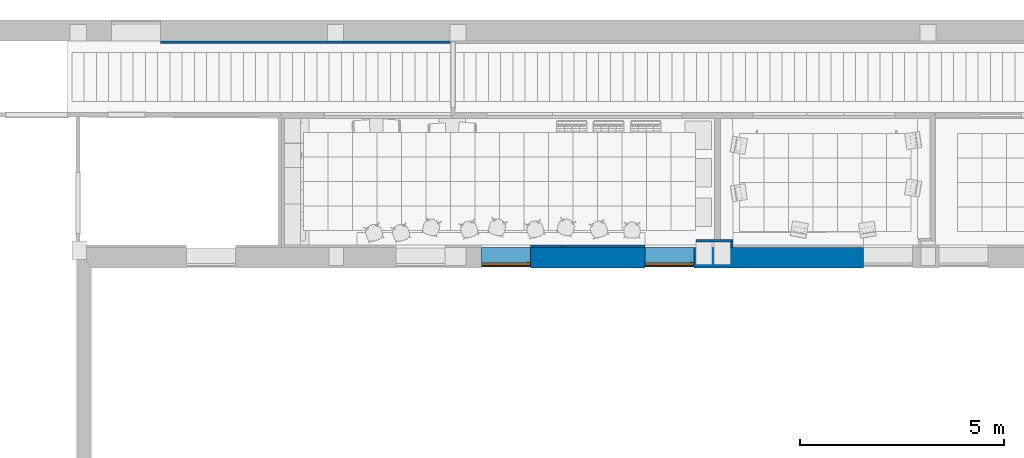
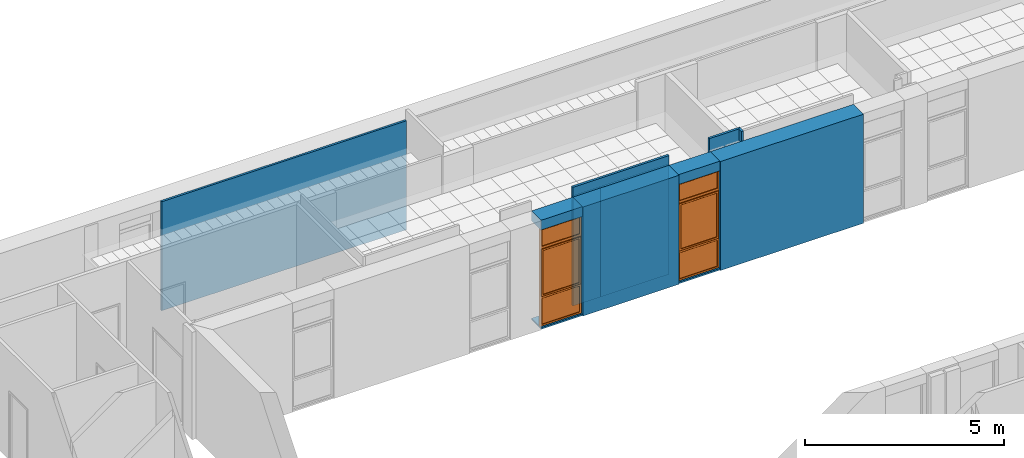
# One storey, part 35 of 60: 10 walls, 2 proxies, 2 openings.
"""IFC2X3 building model written with IfcOpenShell, lengths in millimetres."""

from ifc_helpers import new_model, entity, si_unit, converted_unit, derived_unit, money_unit, direction, frame, origin_with_axes, origin_2d_with_axis, place, context, subcontext, project, spatial, polyline, rectangle, outline, extrude, open_shell, faceted_brep, surface_model, source, transform, mapped, material, layer, layer_set, layer_usage, type_object, element, fill, save


model = new_model("IFC2X3")

# Units and contexts
model_context = context("Model", 3, precision=0.01, world=origin_with_axes(), true_north=direction((0.0, 1.0)))
body_context = subcontext(model_context, "Body", "Model", "MODEL_VIEW")
ifc_project = project(units=[si_unit("LENGTHUNIT", "METRE", prefix="MILLI"), si_unit("AREAUNIT", "SQUARE_METRE"), si_unit("VOLUMEUNIT", "CUBIC_METRE"), converted_unit("PLANEANGLEUNIT", "DEGREE", entity("IfcPlaneAngleMeasure", 0.0174532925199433), si_unit("PLANEANGLEUNIT", "RADIAN"), dimensions=[0, 0, 0, 0, 0, 0, 0]), money_unit("USD"), converted_unit("TIMEUNIT", "Year", entity("IfcTimeMeasure", 31557600.0), si_unit("TIMEUNIT", "SECOND"), dimensions=[0, 0, 1, 0, 0, 0, 0]), si_unit("MASSUNIT", "GRAM", prefix="KILO"), si_unit("THERMODYNAMICTEMPERATUREUNIT", "DEGREE_CELSIUS"), si_unit("LUMINOUSINTENSITYUNIT", "LUMEN"), si_unit("ENERGYUNIT", "JOULE", prefix="MEGA"), derived_unit("THERMALCONDUCTANCEUNIT", [(si_unit("POWERUNIT", "WATT"), 1), (si_unit("LENGTHUNIT", "METRE"), -1), (si_unit("THERMODYNAMICTEMPERATUREUNIT", "KELVIN"), -1)]), derived_unit("SPECIFICHEATCAPACITYUNIT", [(si_unit("ENERGYUNIT", "JOULE"), 1), (si_unit("MASSUNIT", "GRAM", prefix="KILO"), -1), (si_unit("THERMODYNAMICTEMPERATUREUNIT", "KELVIN"), -1)]), derived_unit("MASSDENSITYUNIT", [(si_unit("MASSUNIT", "GRAM", prefix="KILO"), 1), (si_unit("VOLUMEUNIT", "CUBIC_METRE"), -1)])], contexts=[model_context])

# Site, building, storey
site_placement = place(None, origin_with_axes())
site = spatial("IfcSite", under=ifc_project, at=site_placement, Name="Sitio", CompositionType="ELEMENT")
building_placement = place(site_placement, origin_with_axes())
building = spatial("IfcBuilding", under=site, at=building_placement, Name="Construcción", CompositionType="ELEMENT")
storey_placement = place(building_placement, frame((0.0, 0.0, 3650.0), z_axis=(0.0, 0.0, 1.0), x_axis=(1.0, 0.0, 0.0)))
storey = spatial("IfcBuildingStorey", under=building, at=storey_placement, Name="PLANTA 2ª", CompositionType="ELEMENT", Elevation=3650.0)

# Wall, opening, proxy
ifc_material_1 = material(Name="ARQ_AM246_Arrebossat_De_Guix")
ifc_layer_1 = layer(ifc_material_1, 10.0, ventilated="UNKNOWN")
ifc_material_2 = material(Name="ARQ_CE217_Gero")
ifc_layer_2 = layer(ifc_material_2, 120.0, ventilated="UNKNOWN")
ifc_material_3 = material(Name="ARQ_AI031_Aillament_Poliestireno expandido EPS")
ifc_layer_3 = layer(ifc_material_3, 120.0, ventilated="UNKNOWN")
ifc_material_4 = material(Name="ARQ_CE218_Ceramic")
ifc_layer_4 = layer(ifc_material_4, 220.0, ventilated="UNKNOWN")
ifc_layer_5 = layer(ifc_material_1, 10.0, ventilated="UNKNOWN")
ifc_layer_set_1 = layer_set([ifc_layer_1, ifc_layer_2, ifc_layer_3, ifc_layer_4, ifc_layer_5], Name="façana pati CR2 (ampit)")
ifc_layer_usage_1 = layer_usage(ifc_layer_set_1, "AXIS2", "POSITIVE", -480.0)
wall_type_1 = type_object("IfcWallType", Name="façana pati CR2 (ampit) 480", PredefinedType="NOTDEFINED")
wall_1_placement = place(storey_placement, frame((-18136.43135579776, -1193.975823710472, 0.0), z_axis=(0.0, 0.0, 1.0), x_axis=(1.0, 0.0, 0.0)))
wall_1 = element("IfcWallStandardCase", 1, at=wall_1_placement, inside=storey, type_object=wall_type_1, material=ifc_layer_usage_1, Name="MS-200", context=body_context, shape_type="SweptSolid", body=[
    extrude(outline(polyline([(0.0, -480.0), (1200.000000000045, -480.0), (1200.000000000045, 0.0), (0.0, 0.0), (0.0, -480.0)])), origin_with_axes(), (0.0, 0.0, 1.0), 3350.0),
])
opening_1_placement = place(wall_1_placement, frame((600.0000000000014, 0.0, 49.99999999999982), z_axis=(0.0, 0.0, 1.0), x_axis=(1.0, 0.0, 0.0)))
opening_1 = element("IfcOpeningElement", 2, at=opening_1_placement, cuts=wall_1, Name="F01", context=body_context, shape_type="SweptSolid", body=[
    extrude(rectangle(XDim=1200.000000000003, YDim=3000.0, at=origin_2d_with_axis()), frame((0.0, -429.9999999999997, 1500.0), z_axis=(0.0, -1.0, 0.0), x_axis=(-1.0, 0.0, 0.0)), (0.0, 0.0, -1.0), 909.9999999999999),
    extrude(rectangle(XDim=1200.000000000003, YDim=3000.0, at=origin_2d_with_axis()), frame((0.0, -429.9999999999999, 1500.0), z_axis=(0.0, 1.0, 0.0), x_axis=(-1.0, 0.0, 0.0)), (0.0, 0.0, -1.0), 530.0),
])
building_element_proxy_type = type_object("IfcBuildingElementProxyType", Name="Ventana Vertical Multi-Faja 27", PredefinedType="NOTDEFINED")
shared_shape = source(origin_with_axes(), body_context, "Body", "SurfaceModel", [
    faceted_brep([(-575.0, 0.0, 925.0), (-549.9999999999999, 0.0, 925.0), (-549.9999999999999, 0.0, 850.0), (-549.9999999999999, 0.0, 50.00000000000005), (-600.0, 0.0, 50.00000000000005), (-600.0, 0.0, 2950.0), (-549.9999999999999, 0.0, 2950.0), (-549.9999999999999, 0.0, 2450.0), (-549.9999999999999, 0.0, 2375.0), (-575.0, 0.0, 2375.0), (-575.0, -25.00000000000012, 925.0), (-549.9999999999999, -25.00000000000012, 925.0), (-549.9999999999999, -25.00000000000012, 950.0000000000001), (-549.9999999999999, -50.00000000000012, 950.0000000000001), (-549.9999999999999, -50.00000000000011, 850.0), (-549.9999999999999, -50.00000000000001, 50.00000000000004), (-600.0, -50.00000000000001, 50.00000000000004), (-600.0, -50.00000000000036, 2950.0), (-549.9999999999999, -50.00000000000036, 2950.0), (-549.9999999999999, -50.0000000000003, 2450.0), (-550.0, -25.00000000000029, 2375.0), (-549.9999999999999, -50.00000000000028, 2350.0), (-549.9999999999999, -25.00000000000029, 2350.0), (-575.0, -25.00000000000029, 2375.0)], [[[0, 1, 2, 3, 4, 5, 6, 7, 8, 9]], [[0, 10, 11, 1]], [[11, 12, 13, 14, 2, 1]], [[3, 2, 14, 15]], [[4, 3, 15, 16]], [[5, 4, 16, 17]], [[6, 5, 17, 18]], [[7, 6, 18, 19]], [[20, 8, 7, 19, 21, 22]], [[20, 23, 9, 8]], [[9, 23, 10, 0]], [[22, 12, 11, 10, 23, 20]], [[22, 21, 13, 12]], [[17, 16, 15, 14, 13, 21, 19, 18]]]),
    faceted_brep([(575.0, 0.0, 925.0), (575.0, 0.0, 2375.0), (549.9999999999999, 0.0, 2375.0), (549.9999999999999, 0.0, 2450.0), (549.9999999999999, 0.0, 2950.0), (600.0, 0.0, 2950.0), (600.0, 0.0, 50.00000000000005), (549.9999999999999, 0.0, 50.00000000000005), (549.9999999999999, 0.0, 850.0), (549.9999999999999, 0.0, 925.0), (575.0, -25.00000000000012, 925.0), (575.0, -25.00000000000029, 2375.0), (549.9999999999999, -25.00000000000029, 2375.0), (549.9999999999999, -25.00000000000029, 2350.0), (549.9999999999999, -50.00000000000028, 2350.0), (549.9999999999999, -50.0000000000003, 2450.0), (549.9999999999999, -50.00000000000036, 2950.0), (600.0, -50.00000000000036, 2950.0), (600.0, -50.00000000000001, 50.00000000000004), (549.9999999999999, -50.00000000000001, 50.00000000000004), (549.9999999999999, -50.00000000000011, 850.0), (550.0, -25.00000000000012, 925.0), (549.9999999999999, -50.00000000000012, 950.0000000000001), (549.9999999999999, -25.00000000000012, 950.0000000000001)], [[[0, 1, 2, 3, 4, 5, 6, 7, 8, 9]], [[0, 10, 11, 1]], [[1, 11, 12, 2]], [[12, 13, 14, 15, 3, 2]], [[4, 3, 15, 16]], [[5, 4, 16, 17]], [[6, 5, 17, 18]], [[7, 6, 18, 19]], [[8, 7, 19, 20]], [[21, 9, 8, 20, 22, 23]], [[9, 21, 10, 0]], [[12, 11, 10, 21, 23, 13]], [[23, 22, 14, 13]], [[14, 22, 20, 19, 18, 17, 16, 15]]]),
    faceted_brep([(-549.9999999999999, -25.00000000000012, 950.0000000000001), (-549.9999999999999, -50.00000000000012, 950.0000000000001), (549.9999999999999, -50.00000000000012, 950.0000000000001), (549.9999999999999, -25.00000000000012, 950.0000000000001), (-549.9999999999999, -25.00000000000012, 925.0), (-549.9999999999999, 0.0, 925.0), (-549.9999999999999, 0.0, 850.0), (-549.9999999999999, -50.00000000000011, 850.0), (549.9999999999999, -50.00000000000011, 850.0), (550.0, -25.00000000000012, 925.0), (549.9999999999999, 0.0, 850.0), (549.9999999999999, 0.0, 925.0)], [[[0, 1, 2, 3]], [[4, 5, 6, 7, 1, 0]], [[1, 7, 8, 2]], [[9, 3, 2, 8, 10, 11]], [[9, 4, 0, 3]], [[5, 4, 9, 11]], [[11, 10, 6, 5]], [[6, 10, 8, 7]]]),
    faceted_brep([(-549.9999999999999, 0.0, 2375.0), (-549.9999999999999, 0.0, 2450.0), (549.9999999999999, 0.0, 2450.0), (549.9999999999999, 0.0, 2375.0), (-550.0, -25.00000000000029, 2375.0), (-549.9999999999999, -25.00000000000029, 2350.0), (-549.9999999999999, -50.00000000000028, 2350.0), (-549.9999999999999, -50.0000000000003, 2450.0), (549.9999999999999, -50.0000000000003, 2450.0), (549.9999999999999, -25.00000000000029, 2375.0), (549.9999999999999, -50.00000000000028, 2350.0), (549.9999999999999, -25.00000000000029, 2350.0)], [[[0, 1, 2, 3]], [[4, 5, 6, 7, 1, 0]], [[2, 1, 7, 8]], [[9, 3, 2, 8, 10, 11]], [[9, 4, 0, 3]], [[11, 5, 4, 9]], [[11, 10, 6, 5]], [[7, 6, 10, 8]]]),
    faceted_brep([(549.9999999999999, -50.00000000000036, 2950.0), (549.9999999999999, 0.0, 2950.0), (600.0, 0.0, 2950.0), (600.0, -50.00000000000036, 2950.0), (-549.9999999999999, -50.00000000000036, 2950.0), (-549.9999999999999, 0.0, 2950.0), (-600.0, 0.0, 2950.0), (-600.0, 0.0, 3000.0), (600.0, 0.0, 3000.0), (600.0, -50.00000000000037, 3000.0), (-600.0, -50.00000000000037, 3000.0), (-600.0, -50.00000000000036, 2950.0)], [[[0, 1, 2, 3]], [[4, 5, 1, 0]], [[1, 5, 6, 7, 8, 2]], [[3, 2, 8, 9]], [[0, 3, 9, 10, 11, 4]], [[11, 6, 5, 4]], [[10, 7, 6, 11]], [[9, 8, 7, 10]]]),
    faceted_brep([(-549.9999999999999, -50.00000000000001, 50.0), (-549.9999999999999, 0.0, 50.00000000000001), (-600.0, 0.0, 50.00000000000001), (-600.0, -50.00000000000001, 50.0), (549.9999999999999, -50.00000000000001, 50.0), (549.9999999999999, 0.0, 50.00000000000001), (600.0, 0.0, 50.00000000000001), (600.0, 0.0, 0.0), (-600.0, 0.0, 0.0), (-600.0, -50.0, 0.0), (600.0, -50.0, 0.0), (600.0, -50.00000000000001, 50.0)], [[[0, 1, 2, 3]], [[4, 5, 1, 0]], [[1, 5, 6, 7, 8, 2]], [[3, 2, 8, 9]], [[0, 3, 9, 10, 11, 4]], [[11, 6, 5, 4]], [[10, 7, 6, 11]], [[9, 8, 7, 10]]]),
    surface_model("IfcShellBasedSurfaceModel", [(-549.9999999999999, -35.0, 49.99999999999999), (549.9999999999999, -35.0, 49.99999999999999), (549.9999999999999, -35.0000000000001, 850.0), (-549.9999999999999, -35.0000000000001, 850.0)], [open_shell([[[0, 1, 2, 3]]])]),
    surface_model("IfcShellBasedSurfaceModel", [(-549.9999999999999, -15.0, 49.99999999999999), (-549.9999999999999, -15.0000000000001, 850.0), (549.9999999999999, -15.0000000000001, 850.0), (549.9999999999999, -15.0, 49.99999999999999)], [open_shell([[[0, 1, 2, 3]]])]),
    faceted_brep([(-521.5, -25.00000000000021, 1677.0), (-522.8397459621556, -25.00000000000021, 1682.0), (-522.8397459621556, -37.00000000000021, 1682.0), (-521.5, -37.00000000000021, 1677.0), (-521.5, -25.0000000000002, 1623.0), (-522.8397459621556, -25.0000000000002, 1618.0), (-526.5, -25.0000000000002, 1614.339745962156), (-531.5, -25.0000000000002, 1613.0), (-543.5, -25.0000000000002, 1613.0), (-548.5, -25.0000000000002, 1614.339745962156), (-552.1602540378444, -25.0000000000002, 1618.0), (-553.5, -25.0000000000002, 1623.0), (-553.5, -25.00000000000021, 1677.0), (-552.1602540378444, -25.00000000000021, 1682.0), (-548.5, -25.00000000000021, 1685.660254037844), (-543.5, -25.00000000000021, 1687.0), (-531.5, -25.00000000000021, 1687.0), (-526.5, -25.00000000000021, 1685.660254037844), (-526.5, -37.00000000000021, 1685.660254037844), (-531.5, -37.00000000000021, 1687.0), (-543.5, -37.00000000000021, 1687.0), (-548.5, -37.00000000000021, 1685.660254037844), (-552.1602540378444, -37.00000000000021, 1682.0), (-553.5, -37.00000000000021, 1677.0), (-553.5, -37.0000000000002, 1623.0), (-552.1602540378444, -37.0000000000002, 1618.0), (-548.5, -37.0000000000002, 1614.339745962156), (-543.5, -37.0000000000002, 1613.0), (-531.5, -37.0000000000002, 1613.0), (-526.5, -37.0000000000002, 1614.339745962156), (-522.8397459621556, -37.0000000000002, 1618.0), (-521.5, -37.0000000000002, 1623.0)], [[[0, 1, 2, 3]], [[0, 4, 5, 6, 7, 8, 9, 10, 11, 12, 13, 14, 15, 16, 17, 1]], [[1, 17, 18, 2]], [[3, 2, 18, 19, 20, 21, 22, 23, 24, 25, 26, 27, 28, 29, 30, 31]], [[4, 0, 3, 31]], [[5, 4, 31, 30]], [[6, 5, 30, 29]], [[7, 6, 29, 28]], [[8, 7, 28, 27]], [[9, 8, 27, 26]], [[10, 9, 26, 25]], [[11, 10, 25, 24]], [[12, 11, 24, 23]], [[13, 12, 23, 22]], [[14, 13, 22, 21]], [[15, 14, 21, 20]], [[16, 15, 20, 19]], [[17, 16, 19, 18]]]),
    faceted_brep([(-537.5, -37.0000000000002, 1663.5), (-544.25, -37.0000000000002, 1661.69134295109), (-544.25, -61.00000000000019, 1661.69134295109), (-537.5, -61.00000000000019, 1663.5), (-530.75, -37.0000000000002, 1661.69134295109), (-525.80865704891, -37.0000000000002, 1656.75), (-524.0, -37.0000000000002, 1650.0), (-525.8086570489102, -37.0000000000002, 1643.25), (-530.75, -37.0000000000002, 1638.30865704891), (-537.5, -37.0000000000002, 1636.5), (-544.25, -37.0000000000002, 1638.30865704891), (-549.19134295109, -37.0000000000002, 1643.25), (-550.9999999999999, -37.0000000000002, 1650.0), (-549.1913429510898, -37.0000000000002, 1656.75), (-549.1913429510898, -61.00000000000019, 1656.75), (-550.9999999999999, -61.00000000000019, 1650.0), (-549.19134295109, -61.00000000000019, 1643.25), (-544.25, -61.00000000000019, 1638.30865704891), (-537.5, -61.00000000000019, 1636.5), (-530.75, -61.00000000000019, 1638.30865704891), (-525.8086570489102, -61.00000000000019, 1643.25), (-524.0, -61.00000000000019, 1650.0), (-525.80865704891, -61.00000000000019, 1656.75), (-530.75, -61.00000000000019, 1661.69134295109)], [[[0, 1, 2, 3]], [[0, 4, 5, 6, 7, 8, 9, 10, 11, 12, 13, 1]], [[1, 13, 14, 2]], [[3, 2, 14, 15, 16, 17, 18, 19, 20, 21, 22, 23]], [[4, 0, 3, 23]], [[5, 4, 23, 22]], [[6, 5, 22, 21]], [[7, 6, 21, 20]], [[8, 7, 20, 19]], [[9, 8, 19, 18]], [[10, 9, 18, 17]], [[11, 10, 17, 16]], [[12, 11, 16, 15]], [[13, 12, 15, 14]]]),
    faceted_brep([(-526.0, -61.00000000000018, 1543.0), (-537.5, -61.00000000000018, 1540.0), (-548.9999999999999, -61.00000000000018, 1543.0), (-550.9999999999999, -61.00000000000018, 1546.0), (-550.9999999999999, -61.00000000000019, 1650.0), (-549.1913429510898, -61.00000000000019, 1656.75), (-544.25, -61.00000000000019, 1661.69134295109), (-537.5, -61.00000000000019, 1663.5), (-530.75, -61.00000000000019, 1661.69134295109), (-525.80865704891, -61.00000000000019, 1656.75), (-524.0, -61.00000000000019, 1650.0), (-524.0, -61.00000000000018, 1546.0), (-525.9999999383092, -69.00000000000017, 1543.000000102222), (-537.499999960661, -69.00000000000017, 1539.999999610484), (-548.9999999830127, -69.00000000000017, 1543.000000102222), (-551.0000003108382, -69.00000000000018, 1545.999999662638), (-551.0000003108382, -69.0000000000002, 1649.99999994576), (-549.1913429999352, -69.0000000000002, 1656.749999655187), (-544.2499996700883, -69.0000000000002, 1661.691342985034), (-537.499999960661, -69.0000000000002, 1663.500000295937), (-530.7500002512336, -69.0000000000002, 1661.691342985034), (-525.8086569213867, -69.0000000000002, 1656.749999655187), (-523.9999996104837, -69.0000000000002, 1649.99999994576), (-523.9999996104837, -69.00000000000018, 1545.999999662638), (-527.8625374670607, -71.99999956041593, 1545.61451963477), (-537.499999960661, -71.99999956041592, 1543.100398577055), (-547.1374624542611, -71.99999956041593, 1545.61451963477), (-548.0000007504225, -71.99999956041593, 1546.908326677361), (-548.0000007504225, -71.99999956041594, 1649.605042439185), (-546.5016170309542, -71.99999956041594, 1655.197085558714), (-542.6970855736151, -71.99999956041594, 1659.001617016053), (-537.499999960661, -71.99999956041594, 1660.394172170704), (-532.3029143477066, -71.99999956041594, 1659.001617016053), (-528.4983828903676, -71.99999956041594, 1655.197085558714), (-526.9999991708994, -71.99999956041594, 1649.605042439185), (-526.9999991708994, -71.99999956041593, 1546.908326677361)], [[[0, 1, 2, 3, 4, 5, 6, 7, 8, 9, 10, 11]], [[1, 0, 12, 13]], [[2, 1, 13, 14]], [[3, 2, 14, 15]], [[4, 3, 15, 16]], [[5, 4, 16, 17]], [[6, 5, 17, 18]], [[7, 6, 18, 19]], [[8, 7, 19, 20]], [[9, 8, 20, 21]], [[10, 9, 21, 22]], [[11, 10, 22, 23]], [[0, 11, 23, 12]], [[13, 12, 24, 25]], [[14, 13, 25, 26]], [[15, 14, 26, 27]], [[16, 15, 27, 28]], [[17, 16, 28, 29]], [[18, 17, 29, 30]], [[19, 18, 30, 31]], [[20, 19, 31, 32]], [[21, 20, 32, 33]], [[22, 21, 33, 34]], [[23, 22, 34, 35]], [[12, 23, 35, 24]], [[26, 25, 24, 35, 34, 33, 32, 31, 30, 29, 28, 27]]]),
    faceted_brep([(-524.9999999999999, -25.00000000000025, 2325.0), (-524.9999999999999, 24.99999999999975, 2325.0), (-575.0, 24.99999999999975, 2325.0), (-575.0, -25.00000000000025, 2325.0), (-524.9999999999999, -25.00000000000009, 975.0000000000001), (-524.9999999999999, 24.99999999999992, 975.0000000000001), (-575.0, 24.99999999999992, 975.0000000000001), (-575.0, -25.00000000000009, 975.0000000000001)], [[[0, 1, 2, 3]], [[4, 5, 1, 0]], [[1, 5, 6, 2]], [[3, 2, 6, 7]], [[0, 3, 7, 4]], [[7, 6, 5, 4]]]),
    faceted_brep([(524.9999999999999, -25.00000000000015, 975.0000000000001), (524.9999999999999, 24.99999999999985, 975.0000000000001), (575.0, 24.99999999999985, 975.0000000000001), (575.0, -25.00000000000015, 975.0000000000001), (524.9999999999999, -25.00000000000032, 2325.0), (524.9999999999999, 24.99999999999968, 2325.0), (575.0, 24.99999999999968, 2325.0), (575.0, -25.00000000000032, 2325.0)], [[[0, 1, 2, 3]], [[4, 5, 1, 0]], [[1, 5, 6, 2]], [[3, 2, 6, 7]], [[0, 3, 7, 4]], [[7, 6, 5, 4]]]),
    faceted_brep([(575.0, -25.00000000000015, 925.0), (575.0, 24.99999999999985, 925.0), (575.0, 24.99999999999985, 975.0000000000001), (575.0, -25.00000000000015, 975.0000000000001), (-575.0, -25.00000000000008, 925.0), (-575.0, 24.99999999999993, 925.0), (-575.0, 24.99999999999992, 975.0000000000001), (-524.9999999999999, 24.99999999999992, 975.0000000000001), (524.9999999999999, 24.99999999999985, 975.0000000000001), (524.9999999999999, -25.00000000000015, 975.0000000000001), (-524.9999999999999, -25.00000000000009, 975.0000000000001), (-575.0, -25.00000000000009, 975.0000000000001)], [[[0, 1, 2, 3]], [[4, 5, 1, 0]], [[1, 5, 6, 7, 8, 2]], [[3, 2, 8, 9]], [[0, 3, 9, 10, 11, 4]], [[11, 6, 5, 4]], [[10, 7, 6, 11]], [[9, 8, 7, 10]]]),
    faceted_brep([(-575.0, -25.00000000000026, 2375.0), (-575.0, 24.99999999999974, 2375.0), (-575.0, 24.99999999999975, 2325.0), (-575.0, -25.00000000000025, 2325.0), (575.0, -25.00000000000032, 2375.0), (575.0, 24.99999999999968, 2375.0), (575.0, 24.99999999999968, 2325.0), (524.9999999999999, 24.99999999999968, 2325.0), (-524.9999999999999, 24.99999999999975, 2325.0), (-524.9999999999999, -25.00000000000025, 2325.0), (524.9999999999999, -25.00000000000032, 2325.0), (575.0, -25.00000000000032, 2325.0)], [[[0, 1, 2, 3]], [[4, 5, 1, 0]], [[1, 5, 6, 7, 8, 2]], [[3, 2, 8, 9]], [[0, 3, 9, 10, 11, 4]], [[11, 6, 5, 4]], [[10, 7, 6, 11]], [[9, 8, 7, 10]]]),
    surface_model("IfcShellBasedSurfaceModel", [(-524.9999999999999, -10.00000000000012, 975.0000000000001), (524.9999999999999, -10.00000000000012, 975.0000000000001), (524.9999999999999, -10.00000000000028, 2325.0), (-524.9999999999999, -10.00000000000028, 2325.0)], [open_shell([[[0, 1, 2, 3]]])]),
    surface_model("IfcShellBasedSurfaceModel", [(-524.9999999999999, 9.999999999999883, 975.0000000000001), (-524.9999999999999, 9.99999999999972, 2325.0), (524.9999999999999, 9.99999999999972, 2325.0), (524.9999999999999, 9.999999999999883, 975.0000000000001)], [open_shell([[[0, 1, 2, 3]]])]),
    surface_model("IfcShellBasedSurfaceModel", [(-549.9999999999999, -35.0000000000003, 2450.0), (549.9999999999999, -35.0000000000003, 2450.0), (549.9999999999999, -35.00000000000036, 2950.0), (-549.9999999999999, -35.00000000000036, 2950.0)], [open_shell([[[0, 1, 2, 3]]])]),
    surface_model("IfcShellBasedSurfaceModel", [(-549.9999999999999, -15.0000000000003, 2450.0), (-549.9999999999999, -15.00000000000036, 2950.0), (549.9999999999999, -15.00000000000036, 2950.0), (549.9999999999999, -15.0000000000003, 2450.0)], [open_shell([[[0, 1, 2, 3]]])]),
])
proxy_1_placement = place(opening_1_placement, frame((600.0000000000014, 0.0, 0.0), z_axis=(0.0, 0.0, 1.0), x_axis=(-1.0, 0.0, 0.0)))
proxy_1 = element("IfcBuildingElementProxy", 3, at=proxy_1_placement, inside=storey, type_object=building_element_proxy_type, Name="F01", context=body_context, shape_type="MappedRepresentation", body=[
    mapped(shared_shape, transform((600.0000000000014, 430.0000000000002, 0.0))),
])
fill(opening_1, proxy_1)

ifc_layer_usage_2 = layer_usage(ifc_layer_set_1, "AXIS2", "POSITIVE", -480.0)
wall_2_placement = place(storey_placement, frame((-14135.93135579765, -1193.975823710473, 0.0), z_axis=(0.0, 0.0, 1.0), x_axis=(1.0, 0.0, 0.0)))
wall_2 = element("IfcWallStandardCase", 4, at=wall_2_placement, inside=storey, type_object=wall_type_1, material=ifc_layer_usage_2, Name="MS-200", context=body_context, shape_type="SweptSolid", body=[
    extrude(outline(polyline([(0.0, -480.0), (1200.000000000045, -480.0), (1200.000000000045, 0.0), (0.0, 0.0), (0.0, -480.0)])), origin_with_axes(), (0.0, 0.0, 1.0), 3350.0),
])
opening_2_placement = place(wall_2_placement, frame((599.9999999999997, 0.0, 49.99999999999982), z_axis=(0.0, 0.0, 1.0), x_axis=(1.0, 0.0, 0.0)))
opening_2 = element("IfcOpeningElement", 5, at=opening_2_placement, cuts=wall_2, Name="F01", context=body_context, shape_type="SweptSolid", body=[
    extrude(rectangle(XDim=1199.999999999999, YDim=3000.0, at=origin_2d_with_axis()), frame((0.0, -429.9999999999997, 1500.0), z_axis=(0.0, -1.0, 0.0), x_axis=(-1.0, 0.0, 0.0)), (0.0, 0.0, -1.0), 909.9999999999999),
    extrude(rectangle(XDim=1199.999999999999, YDim=3000.0, at=origin_2d_with_axis()), frame((0.0, -429.9999999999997, 1500.0), z_axis=(0.0, 1.0, 0.0), x_axis=(-1.0, 0.0, 0.0)), (0.0, 0.0, -1.0), 530.0),
])
proxy_2_placement = place(opening_2_placement, frame((599.9999999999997, 0.0, 0.0), z_axis=(0.0, 0.0, 1.0), x_axis=(-1.0, 0.0, 0.0)))
proxy_2 = element("IfcBuildingElementProxy", 6, at=proxy_2_placement, inside=storey, type_object=building_element_proxy_type, Name="F01", context=body_context, shape_type="MappedRepresentation", body=[
    mapped(shared_shape, transform((599.9999999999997, 429.9999999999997, 0.0))),
])
fill(opening_2, proxy_2)

# Walls
ifc_layer_6 = layer(ifc_material_2, 10.0, ventilated="UNKNOWN")
ifc_layer_7 = layer(ifc_material_2, 90.0, ventilated="UNKNOWN")
ifc_layer_8 = layer(ifc_material_3, 180.0, ventilated="UNKNOWN")
ifc_layer_9 = layer(ifc_material_4, 215.0, ventilated="UNKNOWN")
ifc_layer_10 = layer(ifc_material_1, 10.0, ventilated="UNKNOWN")
ifc_layer_set_2 = layer_set([ifc_layer_6, ifc_layer_7, ifc_layer_8, ifc_layer_9, ifc_layer_10], Name="façana pati CR2")
ifc_layer_usage_3 = layer_usage(ifc_layer_set_2, "AXIS2", "POSITIVE", -505.0)
wall_type_2 = type_object("IfcWallType", Name="façana pati CR2 505", PredefinedType="NOTDEFINED")
wall_3_placement = place(storey_placement, frame((-16936.43135579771, -1193.975823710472, 0.0), z_axis=(0.0, 0.0, 1.0), x_axis=(1.0, 0.0, 0.0)))
element("IfcWallStandardCase", 7, at=wall_3_placement, inside=storey, type_object=wall_type_2, material=ifc_layer_usage_3, Name="MS-200", context=body_context, shape_type="SweptSolid", body=[
    extrude(outline(polyline([(0.0, -504.9999999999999), (2800.500000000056, -504.9999999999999), (2800.500000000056, 0.0), (0.0, 0.0), (0.0, -504.9999999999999)])), origin_with_axes(), (0.0, 0.0, 1.0), 3350.0),
])
ifc_layer_usage_4 = layer_usage(ifc_layer_set_2, "AXIS2", "POSITIVE", -505.0)
wall_4_placement = place(storey_placement, frame((-12935.93135579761, -1193.975823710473, 0.0), z_axis=(0.0, 0.0, 1.0), x_axis=(1.0, 0.0, 0.0)))
element("IfcWallStandardCase", 8, at=wall_4_placement, inside=storey, type_object=wall_type_2, material=ifc_layer_usage_4, Name="MS-200", context=body_context, shape_type="SweptSolid", body=[
    extrude(outline(polyline([(0.0, -505.0000000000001), (4153.999999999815, -505.0000000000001), (4153.999999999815, 0.0), (0.0, 0.0), (0.0, -505.0000000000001)])), origin_with_axes(), (0.0, 0.0, 1.0), 3350.0),
])
ifc_material_5 = material(Name="ARQ_FU093_Panellat_HPL")
ifc_layer_11 = layer(ifc_material_5, 6.0, ventilated="UNKNOWN")
ifc_material_6 = material(Name="ARQ_EN271_Camara_Aire")
ifc_layer_12 = layer(ifc_material_6, 6.0, ventilated="UNKNOWN")
ifc_material_7 = material(Name="Panel de Yeso Laminado")
ifc_layer_13 = layer(ifc_material_7, 13.0, ventilated="UNKNOWN")
ifc_material_8 = material(Name="ARQ_AI033_Aillament_Llana_De_Roca")
ifc_layer_14 = layer(ifc_material_8, 40.0, ventilated="UNKNOWN")
ifc_layer_set_3 = layer_set([ifc_layer_11, ifc_layer_12, ifc_layer_13, ifc_layer_14], Name="Pladur Tras 40 / 1N +HPL")
ifc_layer_usage_5 = layer_usage(ifc_layer_set_3, "AXIS2", "POSITIVE", -65.0)
wall_type_3 = type_object("IfcWallType", Name="Pladur Tras 40 / 1N +HPL 65", PredefinedType="NOTDEFINED")
wall_5_placement = place(storey_placement, frame((-12035.85958904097, -1061.805203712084, 0.0), z_axis=(0.0, 0.0, 1.0), x_axis=(-1.0, 0.0, 0.0)))
element("IfcWallStandardCase", 9, at=wall_5_placement, inside=storey, type_object=wall_type_3, material=ifc_layer_usage_5, Name="MS-243", context=body_context, shape_type="SweptSolid", body=[
    extrude(outline(polyline([(-64.9999999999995, -64.99999999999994), (850.9518036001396, -64.99999999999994), (850.9518036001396, 0.0), (0.0, 0.0), (-64.9999999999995, -64.99999999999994)])), origin_with_axes(), (0.0, 0.0, 1.0), 3650.0),
])
ifc_layer_usage_6 = layer_usage(ifc_layer_set_3, "AXIS2", "POSITIVE", -65.0)
wall_6_placement = place(storey_placement, frame((-12035.85958904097, -1193.975823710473, 0.0), z_axis=(0.0, 0.0, 1.0), x_axis=(0.0, 1.0, 0.0)))
element("IfcWallStandardCase", 10, at=wall_6_placement, inside=storey, type_object=wall_type_3, material=ifc_layer_usage_6, Name="MS-243", context=body_context, shape_type="SweptSolid", body=[
    extrude(outline(polyline([(0.0, -64.9999999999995), (197.1706199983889, -64.9999999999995), (132.170619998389, 0.0), (0.0, 0.0), (0.0, -64.9999999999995)])), origin_with_axes(), (0.0, 0.0, 1.0), 3650.0),
])
ifc_layer_usage_7 = layer_usage(ifc_layer_set_3, "AXIS2", "POSITIVE", -65.0)
wall_7_placement = place(storey_placement, frame((-14135.93135579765, -1193.97582371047, 0.0), z_axis=(0.0, 0.0, 1.0), x_axis=(-1.0, 0.0, 0.0)))
element("IfcWallStandardCase", 11, at=wall_7_placement, inside=storey, type_object=wall_type_3, material=ifc_layer_usage_7, Name="MS-243", context=body_context, shape_type="SweptSolid", body=[
    extrude(outline(polyline([(0.0, -64.99999999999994), (2800.500000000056, -64.99999999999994), (2800.500000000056, 0.0), (0.0, 0.0), (0.0, -64.99999999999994)])), origin_with_axes(), (0.0, 0.0, 1.0), 3650.0),
])
ifc_layer_usage_8 = layer_usage(ifc_layer_set_3, "AXIS2", "NEGATIVE", 0.0)
wall_8_placement = place(storey_placement, frame((-16936.43135579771, -1128.975823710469, 0.0), z_axis=(0.0, 0.0, 1.0), x_axis=(1.0, 0.0, 0.0)))
element("IfcWallStandardCase", 12, at=wall_8_placement, inside=storey, type_object=wall_type_3, material=ifc_layer_usage_8, Name="MS-241", context=body_context, shape_type="SweptSolid", body=[
    extrude(outline(polyline([(0.0, -64.99999999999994), (800.0000000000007, -64.99999999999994), (800.0000000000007, 0.0), (0.0, 0.0), (0.0, -64.99999999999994)])), origin_with_axes(), (0.0, 0.0, 1.0), 3350.0),
])
ifc_layer_usage_9 = layer_usage(ifc_layer_set_3, "AXIS2", "NEGATIVE", 0.0)
wall_9_placement = place(storey_placement, frame((-16136.43135579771, -1128.975823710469, 0.0), z_axis=(0.0, 0.0, 1.0), x_axis=(1.0, 0.0, 0.0)))
element("IfcWallStandardCase", 13, at=wall_9_placement, inside=storey, type_object=wall_type_3, material=ifc_layer_usage_9, Name="MS-241", context=body_context, shape_type="SweptSolid", body=[
    extrude(outline(polyline([(0.0, -64.99999999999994), (2000.500000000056, -64.99999999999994), (2000.500000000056, 0.0), (0.0, 0.0), (0.0, -64.99999999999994)])), origin_with_axes(), (0.0, 0.0, 1.0), 3350.0),
])
ifc_layer_15 = layer(ifc_material_1, 20.0, ventilated="UNKNOWN")
ifc_layer_16 = layer(ifc_material_6, 40.0, ventilated="UNKNOWN")
ifc_layer_set_4 = layer_set([ifc_layer_15, ifc_layer_16], Name="CR Revestiment HPL")
ifc_layer_usage_10 = layer_usage(ifc_layer_set_4, "AXIS2", "POSITIVE", -60.0)
wall_type_4 = type_object("IfcWallType", Name="CR Revestiment HPL 60", PredefinedType="NOTDEFINED")
wall_10_placement = place(storey_placement, frame((-25995.43478516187, 3863.454186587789, 0.0), z_axis=(0.0, 0.0, 1.0), x_axis=(1.0, 0.0, 0.0)))
element("IfcWallStandardCase", 14, at=wall_10_placement, inside=storey, type_object=wall_type_4, material=ifc_layer_usage_10, Name="MS-215", context=body_context, shape_type="SweptSolid", body=[
    extrude(outline(polyline([(0.0, -60.00000000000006), (7115.149291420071, -60.00000000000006), (7115.149291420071, 0.0), (0.0, 0.0), (0.0, -60.00000000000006)])), origin_with_axes(), (0.0, 0.0, 1.0), 3350.0),
])

save(model, "model.ifc")
